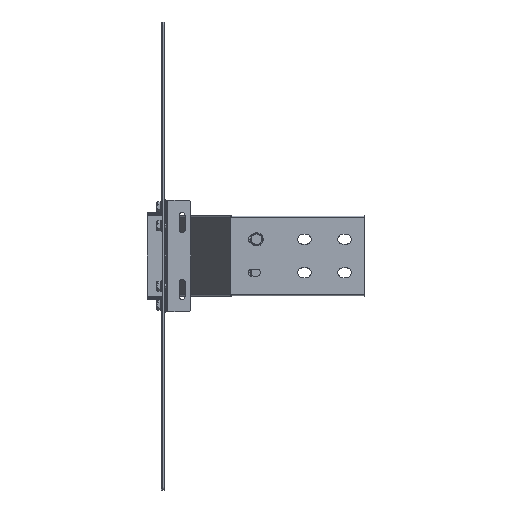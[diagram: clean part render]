
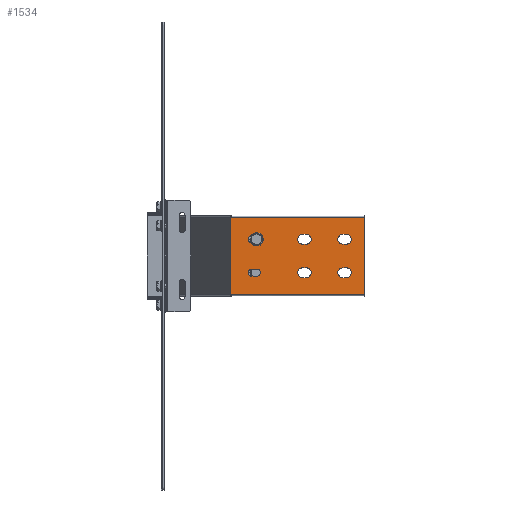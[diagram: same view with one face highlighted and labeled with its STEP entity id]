
A CAD part, front view. The second image highlights one B-rep face of the part: STEP entity #1534.
In plain terms, the highlighted planar face has unit normal (0, -1, 0).
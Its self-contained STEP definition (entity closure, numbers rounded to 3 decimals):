
#1290=AXIS2_PLACEMENT_3D('Circle Axis2P3D',#1288,#1289,$) ;
#1310=AXIS2_PLACEMENT_3D('Plane Axis2P3D',#1307,#1308,#1309) ;
#1348=AXIS2_PLACEMENT_3D('Circle Axis2P3D',#1346,#1347,$) ;
#1366=AXIS2_PLACEMENT_3D('Circle Axis2P3D',#1364,#1365,$) ;
#1382=AXIS2_PLACEMENT_3D('Circle Axis2P3D',#1380,#1381,$) ;
#1400=AXIS2_PLACEMENT_3D('Circle Axis2P3D',#1398,#1399,$) ;
#1416=AXIS2_PLACEMENT_3D('Circle Axis2P3D',#1414,#1415,$) ;
#1443=AXIS2_PLACEMENT_3D('Circle Axis2P3D',#1441,#1442,$) ;
#1457=AXIS2_PLACEMENT_3D('Circle Axis2P3D',#1455,#1456,$) ;
#1468=AXIS2_PLACEMENT_3D('Circle Axis2P3D',#1466,#1467,$) ;
#1484=AXIS2_PLACEMENT_3D('Circle Axis2P3D',#1482,#1483,$) ;
#1502=AXIS2_PLACEMENT_3D('Circle Axis2P3D',#1500,#1501,$) ;
#1518=AXIS2_PLACEMENT_3D('Circle Axis2P3D',#1516,#1517,$) ;
#1254=CARTESIAN_POINT('Vertex',(212.5,-216.95,32.5)) ;
#1257=CARTESIAN_POINT('Line Origine',(210.,-216.95,32.5)) ;
#1261=CARTESIAN_POINT('Vertex',(207.5,-216.95,32.5)) ;
#1288=CARTESIAN_POINT('Axis2P3D Location',(207.5,-216.95,25.)) ;
#1292=CARTESIAN_POINT('Vertex',(207.5,-216.95,17.5)) ;
#1307=CARTESIAN_POINT('Axis2P3D Location',(300.,-216.95,-58.05)) ;
#1312=CARTESIAN_POINT('Line Origine',(199.36,-216.95,-58.05)) ;
#1316=CARTESIAN_POINT('Vertex',(300.,-216.95,-58.05)) ;
#1318=CARTESIAN_POINT('Vertex',(98.719,-216.95,-58.05)) ;
#1321=CARTESIAN_POINT('Line Origine',(300.,-216.95,0.)) ;
#1325=CARTESIAN_POINT('Vertex',(300.,-216.95,58.05)) ;
#1328=CARTESIAN_POINT('Line Origine',(199.36,-216.95,58.05)) ;
#1332=CARTESIAN_POINT('Vertex',(98.719,-216.95,58.05)) ;
#1335=CARTESIAN_POINT('Line Origine',(98.719,-216.95,0.)) ;
#1346=CARTESIAN_POINT('Axis2P3D Location',(212.5,-216.95,25.)) ;
#1350=CARTESIAN_POINT('Vertex',(212.5,-216.95,17.5)) ;
#1353=CARTESIAN_POINT('Line Origine',(210.,-216.95,17.5)) ;
#1364=CARTESIAN_POINT('Axis2P3D Location',(272.5,-216.95,25.)) ;
#1368=CARTESIAN_POINT('Vertex',(272.5,-216.95,17.5)) ;
#1370=CARTESIAN_POINT('Vertex',(272.5,-216.95,32.5)) ;
#1373=CARTESIAN_POINT('Line Origine',(270.,-216.95,17.5)) ;
#1377=CARTESIAN_POINT('Vertex',(267.5,-216.95,17.5)) ;
#1380=CARTESIAN_POINT('Axis2P3D Location',(267.5,-216.95,25.)) ;
#1384=CARTESIAN_POINT('Vertex',(267.5,-216.95,32.5)) ;
#1387=CARTESIAN_POINT('Line Origine',(270.,-216.95,32.5)) ;
#1398=CARTESIAN_POINT('Axis2P3D Location',(207.5,-216.95,-25.)) ;
#1402=CARTESIAN_POINT('Vertex',(207.5,-216.95,-17.5)) ;
#1404=CARTESIAN_POINT('Vertex',(207.5,-216.95,-32.5)) ;
#1407=CARTESIAN_POINT('Line Origine',(210.,-216.95,-17.5)) ;
#1411=CARTESIAN_POINT('Vertex',(212.5,-216.95,-17.5)) ;
#1414=CARTESIAN_POINT('Axis2P3D Location',(212.5,-216.95,-25.)) ;
#1418=CARTESIAN_POINT('Vertex',(212.5,-216.95,-32.5)) ;
#1421=CARTESIAN_POINT('Line Origine',(210.,-216.95,-32.5)) ;
#1432=CARTESIAN_POINT('Line Origine',(270.,-216.95,-17.5)) ;
#1436=CARTESIAN_POINT('Vertex',(272.5,-216.95,-17.5)) ;
#1438=CARTESIAN_POINT('Vertex',(267.5,-216.95,-17.5)) ;
#1441=CARTESIAN_POINT('Axis2P3D Location',(272.5,-216.95,-25.)) ;
#1445=CARTESIAN_POINT('Vertex',(272.5,-216.95,-32.5)) ;
#1448=CARTESIAN_POINT('Line Origine',(270.,-216.95,-32.5)) ;
#1452=CARTESIAN_POINT('Vertex',(267.5,-216.95,-32.5)) ;
#1455=CARTESIAN_POINT('Axis2P3D Location',(267.5,-216.95,-25.)) ;
#1466=CARTESIAN_POINT('Axis2P3D Location',(138.5,-216.95,25.)) ;
#1470=CARTESIAN_POINT('Vertex',(138.5,-216.95,19.5)) ;
#1472=CARTESIAN_POINT('Vertex',(138.5,-216.95,30.5)) ;
#1475=CARTESIAN_POINT('Line Origine',(135.,-216.95,19.5)) ;
#1479=CARTESIAN_POINT('Vertex',(131.5,-216.95,19.5)) ;
#1482=CARTESIAN_POINT('Axis2P3D Location',(131.5,-216.95,25.)) ;
#1486=CARTESIAN_POINT('Vertex',(131.5,-216.95,30.5)) ;
#1489=CARTESIAN_POINT('Line Origine',(135.,-216.95,30.5)) ;
#1500=CARTESIAN_POINT('Axis2P3D Location',(131.5,-216.95,-25.)) ;
#1504=CARTESIAN_POINT('Vertex',(131.5,-216.95,-19.5)) ;
#1506=CARTESIAN_POINT('Vertex',(131.5,-216.95,-30.5)) ;
#1509=CARTESIAN_POINT('Line Origine',(135.,-216.95,-19.5)) ;
#1513=CARTESIAN_POINT('Vertex',(138.5,-216.95,-19.5)) ;
#1516=CARTESIAN_POINT('Axis2P3D Location',(138.5,-216.95,-25.)) ;
#1520=CARTESIAN_POINT('Vertex',(138.5,-216.95,-30.5)) ;
#1523=CARTESIAN_POINT('Line Origine',(135.,-216.95,-30.5)) ;
#1258=DIRECTION('Vector Direction',(1.,0.,0.)) ;
#1289=DIRECTION('Axis2P3D Direction',(0.,-1.,0.)) ;
#1308=DIRECTION('Axis2P3D Direction',(0.,-1.,0.)) ;
#1309=DIRECTION('Axis2P3D XDirection',(0.,0.,1.)) ;
#1313=DIRECTION('Vector Direction',(-1.,0.,0.)) ;
#1322=DIRECTION('Vector Direction',(0.,0.,1.)) ;
#1329=DIRECTION('Vector Direction',(-1.,0.,0.)) ;
#1336=DIRECTION('Vector Direction',(0.,0.,1.)) ;
#1347=DIRECTION('Axis2P3D Direction',(0.,-1.,0.)) ;
#1354=DIRECTION('Vector Direction',(-1.,0.,0.)) ;
#1365=DIRECTION('Axis2P3D Direction',(0.,-1.,0.)) ;
#1374=DIRECTION('Vector Direction',(1.,0.,0.)) ;
#1381=DIRECTION('Axis2P3D Direction',(0.,-1.,0.)) ;
#1388=DIRECTION('Vector Direction',(-1.,0.,0.)) ;
#1399=DIRECTION('Axis2P3D Direction',(0.,-1.,0.)) ;
#1408=DIRECTION('Vector Direction',(-1.,0.,0.)) ;
#1415=DIRECTION('Axis2P3D Direction',(0.,-1.,0.)) ;
#1422=DIRECTION('Vector Direction',(1.,0.,0.)) ;
#1433=DIRECTION('Vector Direction',(1.,0.,0.)) ;
#1442=DIRECTION('Axis2P3D Direction',(0.,-1.,0.)) ;
#1449=DIRECTION('Vector Direction',(-1.,0.,0.)) ;
#1456=DIRECTION('Axis2P3D Direction',(0.,-1.,0.)) ;
#1467=DIRECTION('Axis2P3D Direction',(0.,-1.,0.)) ;
#1476=DIRECTION('Vector Direction',(-1.,0.,0.)) ;
#1483=DIRECTION('Axis2P3D Direction',(0.,-1.,0.)) ;
#1490=DIRECTION('Vector Direction',(1.,0.,0.)) ;
#1501=DIRECTION('Axis2P3D Direction',(0.,-1.,0.)) ;
#1510=DIRECTION('Vector Direction',(-1.,0.,0.)) ;
#1517=DIRECTION('Axis2P3D Direction',(0.,-1.,0.)) ;
#1524=DIRECTION('Vector Direction',(1.,0.,0.)) ;
#1259=VECTOR('Line Direction',#1258,1.) ;
#1314=VECTOR('Line Direction',#1313,1.) ;
#1323=VECTOR('Line Direction',#1322,1.) ;
#1330=VECTOR('Line Direction',#1329,1.) ;
#1337=VECTOR('Line Direction',#1336,1.) ;
#1355=VECTOR('Line Direction',#1354,1.) ;
#1375=VECTOR('Line Direction',#1374,1.) ;
#1389=VECTOR('Line Direction',#1388,1.) ;
#1409=VECTOR('Line Direction',#1408,1.) ;
#1423=VECTOR('Line Direction',#1422,1.) ;
#1434=VECTOR('Line Direction',#1433,1.) ;
#1450=VECTOR('Line Direction',#1449,1.) ;
#1477=VECTOR('Line Direction',#1476,1.) ;
#1491=VECTOR('Line Direction',#1490,1.) ;
#1511=VECTOR('Line Direction',#1510,1.) ;
#1525=VECTOR('Line Direction',#1524,1.) ;
#1341=ORIENTED_EDGE('',*,*,#1320,.F.) ;
#1342=ORIENTED_EDGE('',*,*,#1327,.F.) ;
#1343=ORIENTED_EDGE('',*,*,#1334,.T.) ;
#1344=ORIENTED_EDGE('',*,*,#1339,.F.) ;
#1359=ORIENTED_EDGE('',*,*,#1352,.F.) ;
#1360=ORIENTED_EDGE('',*,*,#1357,.F.) ;
#1361=ORIENTED_EDGE('',*,*,#1294,.F.) ;
#1362=ORIENTED_EDGE('',*,*,#1263,.F.) ;
#1393=ORIENTED_EDGE('',*,*,#1372,.F.) ;
#1394=ORIENTED_EDGE('',*,*,#1379,.F.) ;
#1395=ORIENTED_EDGE('',*,*,#1386,.F.) ;
#1396=ORIENTED_EDGE('',*,*,#1391,.F.) ;
#1427=ORIENTED_EDGE('',*,*,#1406,.F.) ;
#1428=ORIENTED_EDGE('',*,*,#1413,.F.) ;
#1429=ORIENTED_EDGE('',*,*,#1420,.F.) ;
#1430=ORIENTED_EDGE('',*,*,#1425,.F.) ;
#1461=ORIENTED_EDGE('',*,*,#1440,.F.) ;
#1462=ORIENTED_EDGE('',*,*,#1447,.F.) ;
#1463=ORIENTED_EDGE('',*,*,#1454,.F.) ;
#1464=ORIENTED_EDGE('',*,*,#1459,.F.) ;
#1495=ORIENTED_EDGE('',*,*,#1474,.F.) ;
#1496=ORIENTED_EDGE('',*,*,#1481,.F.) ;
#1497=ORIENTED_EDGE('',*,*,#1488,.F.) ;
#1498=ORIENTED_EDGE('',*,*,#1493,.F.) ;
#1529=ORIENTED_EDGE('',*,*,#1508,.F.) ;
#1530=ORIENTED_EDGE('',*,*,#1515,.F.) ;
#1531=ORIENTED_EDGE('',*,*,#1522,.F.) ;
#1532=ORIENTED_EDGE('',*,*,#1527,.F.) ;
#1363=FACE_BOUND('',#1358,.T.) ;
#1397=FACE_BOUND('',#1392,.T.) ;
#1431=FACE_BOUND('',#1426,.T.) ;
#1465=FACE_BOUND('',#1460,.T.) ;
#1499=FACE_BOUND('',#1494,.T.) ;
#1533=FACE_BOUND('',#1528,.T.) ;
#1534=ADVANCED_FACE('N',(#1345,#1363,#1397,#1431,#1465,#1499,#1533),#1311,.T.) ;
#1291=CIRCLE('generated circle',#1290,7.5) ;
#1349=CIRCLE('generated circle',#1348,7.5) ;
#1367=CIRCLE('generated circle',#1366,7.5) ;
#1383=CIRCLE('generated circle',#1382,7.5) ;
#1401=CIRCLE('generated circle',#1400,7.5) ;
#1417=CIRCLE('generated circle',#1416,7.5) ;
#1444=CIRCLE('generated circle',#1443,7.5) ;
#1458=CIRCLE('generated circle',#1457,7.5) ;
#1469=CIRCLE('generated circle',#1468,5.5) ;
#1485=CIRCLE('generated circle',#1484,5.5) ;
#1503=CIRCLE('generated circle',#1502,5.5) ;
#1519=CIRCLE('generated circle',#1518,5.5) ;
#1263=EDGE_CURVE('',#1255,#1262,#1260,.F.) ;
#1294=EDGE_CURVE('',#1262,#1293,#1291,.T.) ;
#1320=EDGE_CURVE('',#1317,#1319,#1315,.T.) ;
#1327=EDGE_CURVE('',#1326,#1317,#1324,.F.) ;
#1334=EDGE_CURVE('',#1326,#1333,#1331,.T.) ;
#1339=EDGE_CURVE('',#1319,#1333,#1338,.T.) ;
#1352=EDGE_CURVE('',#1351,#1255,#1349,.T.) ;
#1357=EDGE_CURVE('',#1293,#1351,#1356,.F.) ;
#1372=EDGE_CURVE('',#1369,#1371,#1367,.T.) ;
#1379=EDGE_CURVE('',#1378,#1369,#1376,.T.) ;
#1386=EDGE_CURVE('',#1385,#1378,#1383,.T.) ;
#1391=EDGE_CURVE('',#1371,#1385,#1390,.T.) ;
#1406=EDGE_CURVE('',#1403,#1405,#1401,.T.) ;
#1413=EDGE_CURVE('',#1412,#1403,#1410,.T.) ;
#1420=EDGE_CURVE('',#1419,#1412,#1417,.T.) ;
#1425=EDGE_CURVE('',#1405,#1419,#1424,.T.) ;
#1440=EDGE_CURVE('',#1437,#1439,#1435,.F.) ;
#1447=EDGE_CURVE('',#1446,#1437,#1444,.T.) ;
#1454=EDGE_CURVE('',#1453,#1446,#1451,.F.) ;
#1459=EDGE_CURVE('',#1439,#1453,#1458,.T.) ;
#1474=EDGE_CURVE('',#1471,#1473,#1469,.T.) ;
#1481=EDGE_CURVE('',#1480,#1471,#1478,.F.) ;
#1488=EDGE_CURVE('',#1487,#1480,#1485,.T.) ;
#1493=EDGE_CURVE('',#1473,#1487,#1492,.F.) ;
#1508=EDGE_CURVE('',#1505,#1507,#1503,.T.) ;
#1515=EDGE_CURVE('',#1514,#1505,#1512,.T.) ;
#1522=EDGE_CURVE('',#1521,#1514,#1519,.T.) ;
#1527=EDGE_CURVE('',#1507,#1521,#1526,.T.) ;
#1340=EDGE_LOOP('',(#1341,#1342,#1343,#1344)) ;
#1358=EDGE_LOOP('',(#1359,#1360,#1361,#1362)) ;
#1392=EDGE_LOOP('',(#1393,#1394,#1395,#1396)) ;
#1426=EDGE_LOOP('',(#1427,#1428,#1429,#1430)) ;
#1460=EDGE_LOOP('',(#1461,#1462,#1463,#1464)) ;
#1494=EDGE_LOOP('',(#1495,#1496,#1497,#1498)) ;
#1528=EDGE_LOOP('',(#1529,#1530,#1531,#1532)) ;
#1345=FACE_OUTER_BOUND('',#1340,.T.) ;
#1260=LINE('Line',#1257,#1259) ;
#1315=LINE('Line',#1312,#1314) ;
#1324=LINE('Line',#1321,#1323) ;
#1331=LINE('Line',#1328,#1330) ;
#1338=LINE('Line',#1335,#1337) ;
#1356=LINE('Line',#1353,#1355) ;
#1376=LINE('Line',#1373,#1375) ;
#1390=LINE('Line',#1387,#1389) ;
#1410=LINE('Line',#1407,#1409) ;
#1424=LINE('Line',#1421,#1423) ;
#1435=LINE('Line',#1432,#1434) ;
#1451=LINE('Line',#1448,#1450) ;
#1478=LINE('Line',#1475,#1477) ;
#1492=LINE('Line',#1489,#1491) ;
#1512=LINE('Line',#1509,#1511) ;
#1526=LINE('Line',#1523,#1525) ;
#1311=PLANE('',#1310) ;
#1255=VERTEX_POINT('',#1254) ;
#1262=VERTEX_POINT('',#1261) ;
#1293=VERTEX_POINT('',#1292) ;
#1317=VERTEX_POINT('',#1316) ;
#1319=VERTEX_POINT('',#1318) ;
#1326=VERTEX_POINT('',#1325) ;
#1333=VERTEX_POINT('',#1332) ;
#1351=VERTEX_POINT('',#1350) ;
#1369=VERTEX_POINT('',#1368) ;
#1371=VERTEX_POINT('',#1370) ;
#1378=VERTEX_POINT('',#1377) ;
#1385=VERTEX_POINT('',#1384) ;
#1403=VERTEX_POINT('',#1402) ;
#1405=VERTEX_POINT('',#1404) ;
#1412=VERTEX_POINT('',#1411) ;
#1419=VERTEX_POINT('',#1418) ;
#1437=VERTEX_POINT('',#1436) ;
#1439=VERTEX_POINT('',#1438) ;
#1446=VERTEX_POINT('',#1445) ;
#1453=VERTEX_POINT('',#1452) ;
#1471=VERTEX_POINT('',#1470) ;
#1473=VERTEX_POINT('',#1472) ;
#1480=VERTEX_POINT('',#1479) ;
#1487=VERTEX_POINT('',#1486) ;
#1505=VERTEX_POINT('',#1504) ;
#1507=VERTEX_POINT('',#1506) ;
#1514=VERTEX_POINT('',#1513) ;
#1521=VERTEX_POINT('',#1520) ;
